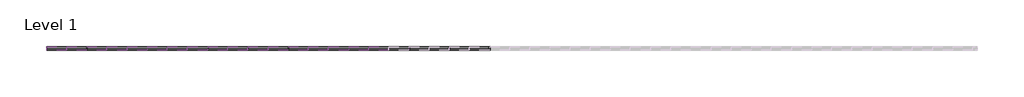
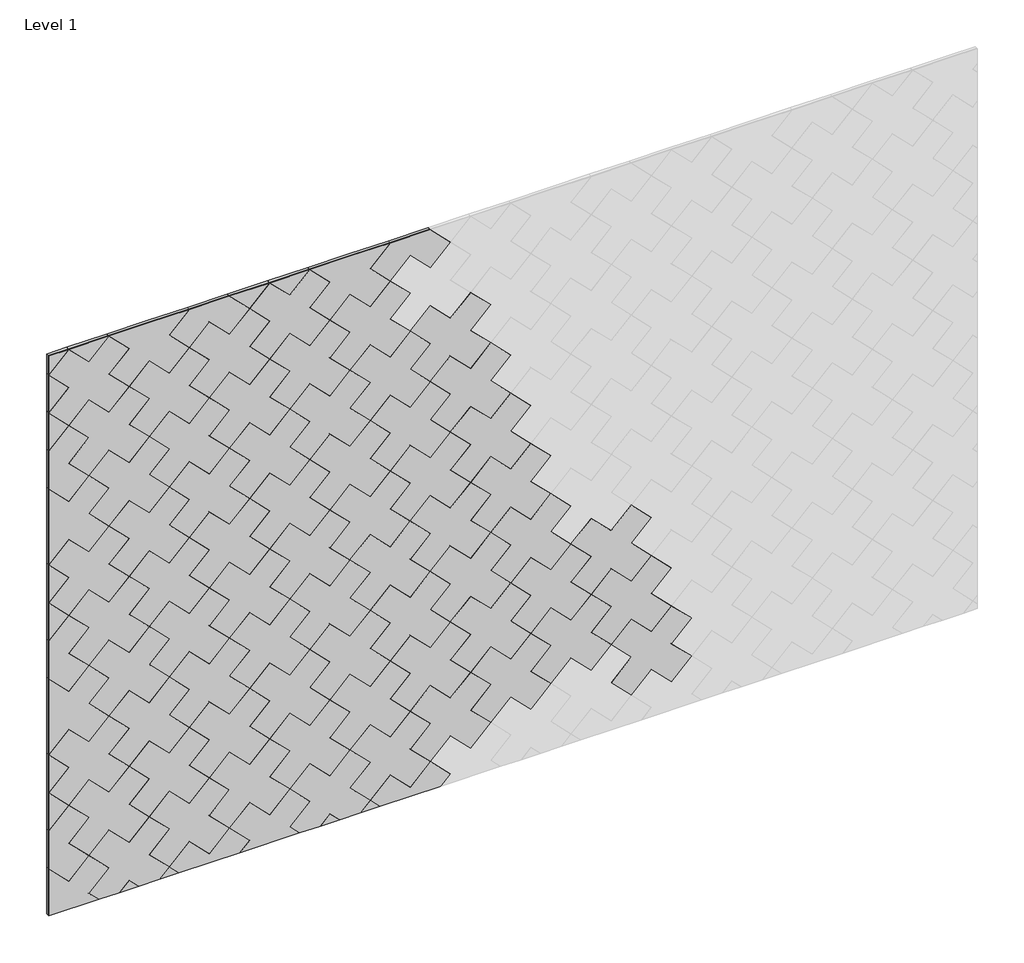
# One storey, part 1 of 2: 83 proxies.
"""IFC4 building model written with IfcOpenShell, lengths in millimetres."""

from ifc_helpers import new_model, si_unit, origin, place, context, project, spatial, transform, mapped, element, save
from components import plus_block_16ed84a6, plus_block_6a39ef65, plus_block_1609f09f, plus_block_e310b0f0, plus_block_f8594fd8, plus_block_650cdf51, plus_block_13f65815, plus_block_f92352bd, plus_block_983ba188, plus_block_c649341d, plus_block_2c174317, plus_block_b4ba28bf, plus_block_45ecfcac

model = new_model("IFC4")

# Units and contexts
model_context = context("Model", 3, world=origin())
ifc_project = project(units=[si_unit("LENGTHUNIT", "METRE", prefix="MILLI")], contexts=[model_context])

# Site, building, storey
site = spatial("IfcSite", under=ifc_project)
building = spatial("IfcBuilding", under=site)
storey = spatial("IfcBuildingStorey", under=building, Name="Level 1", Elevation=0.0)

# Proxies
placement = place(None, origin())
plus_block_shape = plus_block_16ed84a6(model_context)
element("IfcBuildingElementProxy", 1, Name="FilzFelt_Plus_Block : Plus Block", ObjectType="FilzFelt_Plus_Block : Plus Block", at=placement, inside=storey, context=model_context, shape_type="MappedRepresentation", body=[
    mapped(plus_block_shape, transform((19761.4081813, -17477.9339335, 1777.1117122), x_axis=(0.7071067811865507, 0.0, -0.7071067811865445), y_axis=(0.7071067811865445, 0.0, 0.7071067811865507), z_axis=(0.0, -1.0, 0.0))),
])
plus_block_2_shape = plus_block_6a39ef65(model_context)
element("IfcBuildingElementProxy", 2, Name="FilzFelt_Plus_Block : Plus Block", ObjectType="FilzFelt_Plus_Block : Plus Block", at=placement, inside=storey, context=model_context, shape_type="MappedRepresentation", body=[
    mapped(plus_block_2_shape, transform((20192.7433178, -17477.9339335, 1201.9981968), x_axis=(0.7071067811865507, 0.0, -0.7071067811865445), y_axis=(0.7071067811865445, 0.0, 0.7071067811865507), z_axis=(0.0, -1.0, 0.0))),
])
element("IfcBuildingElementProxy", 3, Name="FilzFelt_Plus_Block : Plus Block", ObjectType="FilzFelt_Plus_Block : Plus Block", at=placement, inside=storey, context=model_context, shape_type="MappedRepresentation", body=[
    mapped(plus_block_2_shape, transform((19905.1865601, -17477.9339335, 626.8846814), x_axis=(0.7071067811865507, 0.0, -0.7071067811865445), y_axis=(0.7071067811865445, 0.0, 0.7071067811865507), z_axis=(0.0, -1.0, 0.0))),
])
element("IfcBuildingElementProxy", 4, Name="FilzFelt_Plus_Block : Plus Block", ObjectType="FilzFelt_Plus_Block : Plus Block", at=placement, inside=storey, context=model_context, shape_type="MappedRepresentation", body=[
    mapped(plus_block_2_shape, transform((20048.964939, -17477.9339335, 195.5495449), x_axis=(0.7071067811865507, 0.0, -0.7071067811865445), y_axis=(0.7071067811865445, 0.0, 0.7071067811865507), z_axis=(0.0, -1.0, 0.0))),
])
element("IfcBuildingElementProxy", 5, Name="FilzFelt_Plus_Block : Plus Block", ObjectType="FilzFelt_Plus_Block : Plus Block", at=placement, inside=storey, context=model_context, shape_type="MappedRepresentation", body=[
    mapped(plus_block_2_shape, transform((20480.3000755, -17477.9339335, 339.3279238), x_axis=(0.7071067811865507, 0.0, -0.7071067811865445), y_axis=(0.7071067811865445, 0.0, 0.7071067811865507), z_axis=(0.0, -1.0, 0.0))),
])
element("IfcBuildingElementProxy", 6, Name="FilzFelt_Plus_Block : Plus Block", ObjectType="FilzFelt_Plus_Block : Plus Block", at=placement, inside=storey, context=model_context, shape_type="MappedRepresentation", body=[
    mapped(plus_block_2_shape, transform((20336.5216967, -17477.9339335, 51.7711661), x_axis=(0.7071067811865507, 0.0, -0.7071067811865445), y_axis=(0.7071067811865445, 0.0, 0.7071067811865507), z_axis=(0.0, -1.0, 0.0))),
])
element("IfcBuildingElementProxy", 7, Name="FilzFelt_Plus_Block : Plus Block", ObjectType="FilzFelt_Plus_Block : Plus Block", at=placement, inside=storey, context=model_context, shape_type="MappedRepresentation", body=[
    mapped(plus_block_2_shape, transform((20624.0784544, -17477.9339335, 1345.7765757), x_axis=(0.7071067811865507, 0.0, -0.7071067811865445), y_axis=(0.7071067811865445, 0.0, 0.7071067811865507), z_axis=(0.0, -1.0, 0.0))),
])
element("IfcBuildingElementProxy", 8, Name="FilzFelt_Plus_Block : Plus Block", ObjectType="FilzFelt_Plus_Block : Plus Block", at=placement, inside=storey, context=model_context, shape_type="MappedRepresentation", body=[
    mapped(plus_block_2_shape, transform((20552.1892649, -17477.9339335, 842.5522497), x_axis=(0.7071067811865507, 0.0, -0.7071067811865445), y_axis=(0.7071067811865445, 0.0, 0.7071067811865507), z_axis=(0.0, -1.0, 0.0))),
])
element("IfcBuildingElementProxy", 9, Name="FilzFelt_Plus_Block : Plus Block", ObjectType="FilzFelt_Plus_Block : Plus Block", at=placement, inside=storey, context=model_context, shape_type="MappedRepresentation", body=[
    mapped(plus_block_2_shape, transform((20767.8568332, -17477.9339335, 195.5495449), x_axis=(0.7071067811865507, 0.0, -0.7071067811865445), y_axis=(0.7071067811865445, 0.0, 0.7071067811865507), z_axis=(0.0, -1.0, 0.0))),
])
element("IfcBuildingElementProxy", 10, Name="FilzFelt_Plus_Block : Plus Block", ObjectType="FilzFelt_Plus_Block : Plus Block", at=placement, inside=storey, context=model_context, shape_type="MappedRepresentation", body=[
    mapped(plus_block_2_shape, transform((20839.7460226, -17477.9339335, -20.1180233), x_axis=(0.7071067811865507, 0.0, -0.7071067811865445), y_axis=(0.7071067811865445, 0.0, 0.7071067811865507), z_axis=(0.0, -1.0, 0.0))),
])
element("IfcBuildingElementProxy", 11, Name="FilzFelt_Plus_Block : Plus Block", ObjectType="FilzFelt_Plus_Block : Plus Block", at=placement, inside=storey, context=model_context, shape_type="MappedRepresentation", body=[
    mapped(plus_block_2_shape, transform((21414.859538, -17477.9339335, 411.2171132), x_axis=(0.7071067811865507, 0.0, -0.7071067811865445), y_axis=(0.7071067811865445, 0.0, 0.7071067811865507), z_axis=(0.0, -1.0, 0.0))),
])
element("IfcBuildingElementProxy", 12, Name="FilzFelt_Plus_Block : Plus Block", ObjectType="FilzFelt_Plus_Block : Plus Block", at=placement, inside=storey, context=model_context, shape_type="MappedRepresentation", body=[
    mapped(plus_block_2_shape, transform((21342.9703486, -17477.9339335, -92.0072128), x_axis=(0.7071067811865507, 0.0, -0.7071067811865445), y_axis=(0.7071067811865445, 0.0, 0.7071067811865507), z_axis=(0.0, -1.0, 0.0))),
])
element("IfcBuildingElementProxy", 13, Name="FilzFelt_Plus_Block : Plus Block", ObjectType="FilzFelt_Plus_Block : Plus Block", at=placement, inside=storey, context=model_context, shape_type="MappedRepresentation", body=[
    mapped(plus_block_2_shape, transform((21774.3054851, -17477.9339335, 51.7711661), x_axis=(0.7071067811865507, 0.0, -0.7071067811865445), y_axis=(0.7071067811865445, 0.0, 0.7071067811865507), z_axis=(0.0, -1.0, 0.0))),
])
element("IfcBuildingElementProxy", 14, Name="FilzFelt_Plus_Block : Plus Block", ObjectType="FilzFelt_Plus_Block : Plus Block", at=placement, inside=storey, context=model_context, shape_type="MappedRepresentation", body=[
    mapped(plus_block_2_shape, transform((21846.1946745, -17477.9339335, -163.8964022), x_axis=(0.7071067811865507, 0.0, -0.7071067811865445), y_axis=(0.7071067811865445, 0.0, 0.7071067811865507), z_axis=(0.0, -1.0, 0.0))),
])
element("IfcBuildingElementProxy", 15, Name="FilzFelt_Plus_Block : Plus Block", ObjectType="FilzFelt_Plus_Block : Plus Block", at=placement, inside=storey, context=model_context, shape_type="MappedRepresentation", body=[
    mapped(plus_block_2_shape, transform((20911.635212, -17477.9339335, 1201.9981968), x_axis=(0.7071067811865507, 0.0, -0.7071067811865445), y_axis=(0.7071067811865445, 0.0, 0.7071067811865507), z_axis=(0.0, -1.0, 0.0))),
])
element("IfcBuildingElementProxy", 16, Name="FilzFelt_Plus_Block : Plus Block", ObjectType="FilzFelt_Plus_Block : Plus Block", at=placement, inside=storey, context=model_context, shape_type="MappedRepresentation", body=[
    mapped(plus_block_2_shape, transform((21199.1919697, -17477.9339335, 1058.219818), x_axis=(0.7071067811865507, 0.0, -0.7071067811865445), y_axis=(0.7071067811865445, 0.0, 0.7071067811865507), z_axis=(0.0, -1.0, 0.0))),
])
plus_block_3_shape = plus_block_1609f09f(model_context)
element("IfcBuildingElementProxy", 17, Name="FilzFelt_Plus_Block : Plus Block", ObjectType="FilzFelt_Plus_Block : Plus Block", at=placement, inside=storey, context=model_context, shape_type="MappedRepresentation", body=[
    mapped(plus_block_3_shape, transform((19617.6298025, -17477.9339335, 770.6630603), x_axis=(0.7071067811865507, 0.0, -0.7071067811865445), y_axis=(0.7071067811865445, 0.0, 0.7071067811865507), z_axis=(0.0, -1.0, 0.0))),
])
element("IfcBuildingElementProxy", 18, Name="FilzFelt_Plus_Block : Plus Block", ObjectType="FilzFelt_Plus_Block : Plus Block", at=placement, inside=storey, context=model_context, shape_type="MappedRepresentation", body=[
    mapped(plus_block_3_shape, transform((19617.6298025, -17477.9339335, 51.7711661), x_axis=(0.7071067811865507, 0.0, -0.7071067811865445), y_axis=(0.7071067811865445, 0.0, 0.7071067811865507), z_axis=(0.0, -1.0, 0.0))),
])
plus_block_4_shape = plus_block_e310b0f0(model_context)
element("IfcBuildingElementProxy", 19, Name="FilzFelt_Plus_Block : Plus Block", ObjectType="FilzFelt_Plus_Block : Plus Block", at=placement, inside=storey, context=model_context, shape_type="MappedRepresentation", body=[
    mapped(plus_block_4_shape, transform((20983.5244015, -17477.9339335, 1705.2225228), x_axis=(0.7071067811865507, 0.0, -0.7071067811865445), y_axis=(0.7071067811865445, 0.0, 0.7071067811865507), z_axis=(0.0, -1.0, 0.0))),
])
plus_block_5_shape = plus_block_f8594fd8(model_context)
element("IfcBuildingElementProxy", 20, Name="FilzFelt_Plus_Block : Plus Block", ObjectType="FilzFelt_Plus_Block : Plus Block", at=placement, inside=storey, context=model_context, shape_type="MappedRepresentation", body=[
    mapped(plus_block_5_shape, transform((20480.3000755, -17477.9339335, -379.5639704), x_axis=(0.7071067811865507, 0.0, -0.7071067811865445), y_axis=(0.7071067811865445, 0.0, 0.7071067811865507), z_axis=(0.0, -1.0, 0.0))),
])
plus_block_6_shape = plus_block_650cdf51(model_context)
element("IfcBuildingElementProxy", 21, Name="FilzFelt_Plus_Block : Plus Block", ObjectType="FilzFelt_Plus_Block : Plus Block", at=placement, inside=storey, context=model_context, shape_type="MappedRepresentation", body=[
    mapped(plus_block_6_shape, transform((19977.0757496, -17477.9339335, -307.674781), x_axis=(0.7071067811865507, 0.0, -0.7071067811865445), y_axis=(0.7071067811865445, 0.0, 0.7071067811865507), z_axis=(0.0, -1.0, 0.0))),
])
plus_block_7_shape = plus_block_13f65815(model_context)
element("IfcBuildingElementProxy", 22, Name="FilzFelt_Plus_Block : Plus Block", ObjectType="FilzFelt_Plus_Block : Plus Block", at=placement, inside=storey, context=model_context, shape_type="MappedRepresentation", body=[
    mapped(plus_block_7_shape, transform((20048.964939, -17477.9339335, -523.3423493), x_axis=(0.7071067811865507, 0.0, -0.7071067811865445), y_axis=(0.7071067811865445, 0.0, 0.7071067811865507), z_axis=(0.0, -1.0, 0.0))),
])
element("IfcBuildingElementProxy", 23, Name="FilzFelt_Plus_Block : Plus Block", ObjectType="FilzFelt_Plus_Block : Plus Block", at=placement, inside=storey, context=model_context, shape_type="MappedRepresentation", body=[
    mapped(plus_block_7_shape, transform((20767.8568332, -17477.9339335, -523.3423493), x_axis=(0.7071067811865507, 0.0, -0.7071067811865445), y_axis=(0.7071067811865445, 0.0, 0.7071067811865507), z_axis=(0.0, -1.0, 0.0))),
])
plus_block_8_shape = plus_block_f92352bd(model_context)
element("IfcBuildingElementProxy", 24, Name="FilzFelt_Plus_Block : Plus Block", ObjectType="FilzFelt_Plus_Block : Plus Block", at=placement, inside=storey, context=model_context, shape_type="MappedRepresentation", body=[
    mapped(plus_block_8_shape, transform((19689.5189919, -17477.9339335, 1273.8873862), x_axis=(0.7071067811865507, 0.0, -0.7071067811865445), y_axis=(0.7071067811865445, 0.0, 0.7071067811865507), z_axis=(0.0, -1.0, 0.0))),
])
element("IfcBuildingElementProxy", 25, Name="FilzFelt_Plus_Block : Plus Block", ObjectType="FilzFelt_Plus_Block : Plus Block", at=placement, inside=storey, context=model_context, shape_type="MappedRepresentation", body=[
    mapped(plus_block_3_shape, transform((19617.6298025, -17477.9339335, 1489.5549545), x_axis=(0.7071067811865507, 0.0, -0.7071067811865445), y_axis=(0.7071067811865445, 0.0, 0.7071067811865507), z_axis=(0.0, -1.0, 0.0))),
])
plus_block_9_shape = plus_block_983ba188(model_context)
element("IfcBuildingElementProxy", 26, Name="FilzFelt_Plus_Block : Plus Block", ObjectType="FilzFelt_Plus_Block : Plus Block", at=placement, inside=storey, context=model_context, shape_type="MappedRepresentation", body=[
    mapped(plus_block_9_shape, transform((19761.4081813, -17477.9339335, 1058.219818), x_axis=(0.7071067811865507, 0.0, -0.7071067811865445), y_axis=(0.7071067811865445, 0.0, 0.7071067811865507), z_axis=(0.0, -1.0, 0.0))),
])
element("IfcBuildingElementProxy", 27, Name="FilzFelt_Plus_Block : Plus Block", ObjectType="FilzFelt_Plus_Block : Plus Block", at=placement, inside=storey, context=model_context, shape_type="MappedRepresentation", body=[
    mapped(plus_block_8_shape, transform((19689.5189919, -17477.9339335, 554.995492), x_axis=(0.7071067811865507, 0.0, -0.7071067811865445), y_axis=(0.7071067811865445, 0.0, 0.7071067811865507), z_axis=(0.0, -1.0, 0.0))),
])
element("IfcBuildingElementProxy", 28, Name="FilzFelt_Plus_Block : Plus Block", ObjectType="FilzFelt_Plus_Block : Plus Block", at=placement, inside=storey, context=model_context, shape_type="MappedRepresentation", body=[
    mapped(plus_block_2_shape, transform((20048.964939, -17477.9339335, 914.4414391), x_axis=(0.7071067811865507, 0.0, -0.7071067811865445), y_axis=(0.7071067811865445, 0.0, 0.7071067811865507), z_axis=(0.0, -1.0, 0.0))),
])
element("IfcBuildingElementProxy", 29, Name="FilzFelt_Plus_Block : Plus Block", ObjectType="FilzFelt_Plus_Block : Plus Block", at=placement, inside=storey, context=model_context, shape_type="MappedRepresentation", body=[
    mapped(plus_block_2_shape, transform((20120.8541284, -17477.9339335, 1417.6657651), x_axis=(0.7071067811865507, 0.0, -0.7071067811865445), y_axis=(0.7071067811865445, 0.0, 0.7071067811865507), z_axis=(0.0, -1.0, 0.0))),
])
element("IfcBuildingElementProxy", 30, Name="FilzFelt_Plus_Block : Plus Block", ObjectType="FilzFelt_Plus_Block : Plus Block", at=placement, inside=storey, context=model_context, shape_type="MappedRepresentation", body=[
    mapped(plus_block_2_shape, transform((20336.5216967, -17477.9339335, 770.6630603), x_axis=(0.7071067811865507, 0.0, -0.7071067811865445), y_axis=(0.7071067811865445, 0.0, 0.7071067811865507), z_axis=(0.0, -1.0, 0.0))),
])
element("IfcBuildingElementProxy", 31, Name="FilzFelt_Plus_Block : Plus Block", ObjectType="FilzFelt_Plus_Block : Plus Block", at=placement, inside=storey, context=model_context, shape_type="MappedRepresentation", body=[
    mapped(plus_block_2_shape, transform((19977.0757496, -17477.9339335, 411.2171132), x_axis=(0.7071067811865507, 0.0, -0.7071067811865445), y_axis=(0.7071067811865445, 0.0, 0.7071067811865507), z_axis=(0.0, -1.0, 0.0))),
])
element("IfcBuildingElementProxy", 32, Name="FilzFelt_Plus_Block : Plus Block", ObjectType="FilzFelt_Plus_Block : Plus Block", at=placement, inside=storey, context=model_context, shape_type="MappedRepresentation", body=[
    mapped(plus_block_2_shape, transform((19833.2973707, -17477.9339335, 123.6603555), x_axis=(0.7071067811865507, 0.0, -0.7071067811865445), y_axis=(0.7071067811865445, 0.0, 0.7071067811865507), z_axis=(0.0, -1.0, 0.0))),
])
element("IfcBuildingElementProxy", 33, Name="FilzFelt_Plus_Block : Plus Block", ObjectType="FilzFelt_Plus_Block : Plus Block", at=placement, inside=storey, context=model_context, shape_type="MappedRepresentation", body=[
    mapped(plus_block_2_shape, transform((20408.4108861, -17477.9339335, 1273.8873862), x_axis=(0.7071067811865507, 0.0, -0.7071067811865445), y_axis=(0.7071067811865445, 0.0, 0.7071067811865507), z_axis=(0.0, -1.0, 0.0))),
])
element("IfcBuildingElementProxy", 34, Name="FilzFelt_Plus_Block : Plus Block", ObjectType="FilzFelt_Plus_Block : Plus Block", at=placement, inside=storey, context=model_context, shape_type="MappedRepresentation", body=[
    mapped(plus_block_2_shape, transform((20983.5244015, -17477.9339335, 267.4387343), x_axis=(0.7071067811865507, 0.0, -0.7071067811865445), y_axis=(0.7071067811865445, 0.0, 0.7071067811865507), z_axis=(0.0, -1.0, 0.0))),
])
element("IfcBuildingElementProxy", 35, Name="FilzFelt_Plus_Block : Plus Block", ObjectType="FilzFelt_Plus_Block : Plus Block", at=placement, inside=storey, context=model_context, shape_type="MappedRepresentation", body=[
    mapped(plus_block_2_shape, transform((21271.0811591, -17477.9339335, 123.6603555), x_axis=(0.7071067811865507, 0.0, -0.7071067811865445), y_axis=(0.7071067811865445, 0.0, 0.7071067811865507), z_axis=(0.0, -1.0, 0.0))),
])
element("IfcBuildingElementProxy", 36, Name="FilzFelt_Plus_Block : Plus Block", ObjectType="FilzFelt_Plus_Block : Plus Block", at=placement, inside=storey, context=model_context, shape_type="MappedRepresentation", body=[
    mapped(plus_block_2_shape, transform((21127.3027803, -17477.9339335, 554.995492), x_axis=(0.7071067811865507, 0.0, -0.7071067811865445), y_axis=(0.7071067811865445, 0.0, 0.7071067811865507), z_axis=(0.0, -1.0, 0.0))),
])
element("IfcBuildingElementProxy", 37, Name="FilzFelt_Plus_Block : Plus Block", ObjectType="FilzFelt_Plus_Block : Plus Block", at=placement, inside=storey, context=model_context, shape_type="MappedRepresentation", body=[
    mapped(plus_block_2_shape, transform((21486.7487274, -17477.9339335, 195.5495449), x_axis=(0.7071067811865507, 0.0, -0.7071067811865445), y_axis=(0.7071067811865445, 0.0, 0.7071067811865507), z_axis=(0.0, -1.0, 0.0))),
])
element("IfcBuildingElementProxy", 38, Name="FilzFelt_Plus_Block : Plus Block", ObjectType="FilzFelt_Plus_Block : Plus Block", at=placement, inside=storey, context=model_context, shape_type="MappedRepresentation", body=[
    mapped(plus_block_2_shape, transform((20839.7460226, -17477.9339335, 1417.6657651), x_axis=(0.7071067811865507, 0.0, -0.7071067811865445), y_axis=(0.7071067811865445, 0.0, 0.7071067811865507), z_axis=(0.0, -1.0, 0.0))),
])
element("IfcBuildingElementProxy", 39, Name="FilzFelt_Plus_Block : Plus Block", ObjectType="FilzFelt_Plus_Block : Plus Block", at=placement, inside=storey, context=model_context, shape_type="MappedRepresentation", body=[
    mapped(plus_block_2_shape, transform((20839.7460226, -17477.9339335, 698.7738709), x_axis=(0.7071067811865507, 0.0, -0.7071067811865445), y_axis=(0.7071067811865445, 0.0, 0.7071067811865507), z_axis=(0.0, -1.0, 0.0))),
])
element("IfcBuildingElementProxy", 40, Name="FilzFelt_Plus_Block : Plus Block", ObjectType="FilzFelt_Plus_Block : Plus Block", at=placement, inside=storey, context=model_context, shape_type="MappedRepresentation", body=[
    mapped(plus_block_2_shape, transform((20983.5244015, -17477.9339335, 986.3306285), x_axis=(0.7071067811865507, 0.0, -0.7071067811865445), y_axis=(0.7071067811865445, 0.0, 0.7071067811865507), z_axis=(0.0, -1.0, 0.0))),
])
plus_block_10_shape = plus_block_c649341d(model_context)
element("IfcBuildingElementProxy", 41, Name="FilzFelt_Plus_Block : Plus Block", ObjectType="FilzFelt_Plus_Block : Plus Block", at=placement, inside=storey, context=model_context, shape_type="MappedRepresentation", body=[
    mapped(plus_block_10_shape, transform((19761.4081813, -17477.9339335, -379.5639704), x_axis=(0.7071067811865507, 0.0, -0.7071067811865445), y_axis=(0.7071067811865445, 0.0, 0.7071067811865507), z_axis=(0.0, -1.0, 0.0))),
])
element("IfcBuildingElementProxy", 42, Name="FilzFelt_Plus_Block : Plus Block", ObjectType="FilzFelt_Plus_Block : Plus Block", at=placement, inside=storey, context=model_context, shape_type="MappedRepresentation", body=[
    mapped(plus_block_6_shape, transform((20695.9676438, -17477.9339335, -307.674781), x_axis=(0.7071067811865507, 0.0, -0.7071067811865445), y_axis=(0.7071067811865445, 0.0, 0.7071067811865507), z_axis=(0.0, -1.0, 0.0))),
])
plus_block_11_shape = plus_block_2c174317(model_context)
element("IfcBuildingElementProxy", 43, Name="FilzFelt_Plus_Block : Plus Block", ObjectType="FilzFelt_Plus_Block : Plus Block", at=placement, inside=storey, context=model_context, shape_type="MappedRepresentation", body=[
    mapped(plus_block_11_shape, transform((20264.6325073, -17477.9339335, -451.4531599), x_axis=(0.7071067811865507, 0.0, -0.7071067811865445), y_axis=(0.7071067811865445, 0.0, 0.7071067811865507), z_axis=(0.0, -1.0, 0.0))),
])
element("IfcBuildingElementProxy", 44, Name="FilzFelt_Plus_Block : Plus Block", ObjectType="FilzFelt_Plus_Block : Plus Block", at=placement, inside=storey, context=model_context, shape_type="MappedRepresentation", body=[
    mapped(plus_block_11_shape, transform((20983.5244015, -17477.9339335, -451.4531599), x_axis=(0.7071067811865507, 0.0, -0.7071067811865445), y_axis=(0.7071067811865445, 0.0, 0.7071067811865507), z_axis=(0.0, -1.0, 0.0))),
])
element("IfcBuildingElementProxy", 45, Name="FilzFelt_Plus_Block : Plus Block", ObjectType="FilzFelt_Plus_Block : Plus Block", at=placement, inside=storey, context=model_context, shape_type="MappedRepresentation", body=[
    mapped(plus_block_2_shape, transform((19833.2973707, -17477.9339335, 1561.4441439), x_axis=(0.7071067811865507, 0.0, -0.7071067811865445), y_axis=(0.7071067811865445, 0.0, 0.7071067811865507), z_axis=(0.0, -1.0, 0.0))),
])
element("IfcBuildingElementProxy", 46, Name="FilzFelt_Plus_Block : Plus Block", ObjectType="FilzFelt_Plus_Block : Plus Block", at=placement, inside=storey, context=model_context, shape_type="MappedRepresentation", body=[
    mapped(plus_block_2_shape, transform((19977.0757496, -17477.9339335, 1130.1090074), x_axis=(0.7071067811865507, 0.0, -0.7071067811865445), y_axis=(0.7071067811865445, 0.0, 0.7071067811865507), z_axis=(0.0, -1.0, 0.0))),
])
element("IfcBuildingElementProxy", 47, Name="FilzFelt_Plus_Block : Plus Block", ObjectType="FilzFelt_Plus_Block : Plus Block", at=placement, inside=storey, context=model_context, shape_type="MappedRepresentation", body=[
    mapped(plus_block_2_shape, transform((20264.6325073, -17477.9339335, 986.3306285), x_axis=(0.7071067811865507, 0.0, -0.7071067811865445), y_axis=(0.7071067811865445, 0.0, 0.7071067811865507), z_axis=(0.0, -1.0, 0.0))),
])
element("IfcBuildingElementProxy", 48, Name="FilzFelt_Plus_Block : Plus Block", ObjectType="FilzFelt_Plus_Block : Plus Block", at=placement, inside=storey, context=model_context, shape_type="MappedRepresentation", body=[
    mapped(plus_block_2_shape, transform((20192.7433178, -17477.9339335, 483.1063026), x_axis=(0.7071067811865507, 0.0, -0.7071067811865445), y_axis=(0.7071067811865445, 0.0, 0.7071067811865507), z_axis=(0.0, -1.0, 0.0))),
])
element("IfcBuildingElementProxy", 49, Name="FilzFelt_Plus_Block : Plus Block", ObjectType="FilzFelt_Plus_Block : Plus Block", at=placement, inside=storey, context=model_context, shape_type="MappedRepresentation", body=[
    mapped(plus_block_2_shape, transform((20264.6325073, -17477.9339335, 267.4387343), x_axis=(0.7071067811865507, 0.0, -0.7071067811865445), y_axis=(0.7071067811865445, 0.0, 0.7071067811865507), z_axis=(0.0, -1.0, 0.0))),
])
element("IfcBuildingElementProxy", 50, Name="FilzFelt_Plus_Block : Plus Block", ObjectType="FilzFelt_Plus_Block : Plus Block", at=placement, inside=storey, context=model_context, shape_type="MappedRepresentation", body=[
    mapped(plus_block_2_shape, transform((19905.1865601, -17477.9339335, -92.0072128), x_axis=(0.7071067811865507, 0.0, -0.7071067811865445), y_axis=(0.7071067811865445, 0.0, 0.7071067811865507), z_axis=(0.0, -1.0, 0.0))),
])
element("IfcBuildingElementProxy", 51, Name="FilzFelt_Plus_Block : Plus Block", ObjectType="FilzFelt_Plus_Block : Plus Block", at=placement, inside=storey, context=model_context, shape_type="MappedRepresentation", body=[
    mapped(plus_block_2_shape, transform((20552.1892649, -17477.9339335, 123.6603555), x_axis=(0.7071067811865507, 0.0, -0.7071067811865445), y_axis=(0.7071067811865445, 0.0, 0.7071067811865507), z_axis=(0.0, -1.0, 0.0))),
])
element("IfcBuildingElementProxy", 52, Name="FilzFelt_Plus_Block : Plus Block", ObjectType="FilzFelt_Plus_Block : Plus Block", at=placement, inside=storey, context=model_context, shape_type="MappedRepresentation", body=[
    mapped(plus_block_2_shape, transform((20408.4108861, -17477.9339335, -163.8964022), x_axis=(0.7071067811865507, 0.0, -0.7071067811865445), y_axis=(0.7071067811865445, 0.0, 0.7071067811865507), z_axis=(0.0, -1.0, 0.0))),
])
element("IfcBuildingElementProxy", 53, Name="FilzFelt_Plus_Block : Plus Block", ObjectType="FilzFelt_Plus_Block : Plus Block", at=placement, inside=storey, context=model_context, shape_type="MappedRepresentation", body=[
    mapped(plus_block_2_shape, transform((20552.1892649, -17477.9339335, 1561.4441439), x_axis=(0.7071067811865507, 0.0, -0.7071067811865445), y_axis=(0.7071067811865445, 0.0, 0.7071067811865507), z_axis=(0.0, -1.0, 0.0))),
])
element("IfcBuildingElementProxy", 54, Name="FilzFelt_Plus_Block : Plus Block", ObjectType="FilzFelt_Plus_Block : Plus Block", at=placement, inside=storey, context=model_context, shape_type="MappedRepresentation", body=[
    mapped(plus_block_2_shape, transform((20480.3000755, -17477.9339335, 1058.219818), x_axis=(0.7071067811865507, 0.0, -0.7071067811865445), y_axis=(0.7071067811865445, 0.0, 0.7071067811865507), z_axis=(0.0, -1.0, 0.0))),
])
element("IfcBuildingElementProxy", 55, Name="FilzFelt_Plus_Block : Plus Block", ObjectType="FilzFelt_Plus_Block : Plus Block", at=placement, inside=storey, context=model_context, shape_type="MappedRepresentation", body=[
    mapped(plus_block_2_shape, transform((20624.0784544, -17477.9339335, 626.8846814), x_axis=(0.7071067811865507, 0.0, -0.7071067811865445), y_axis=(0.7071067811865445, 0.0, 0.7071067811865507), z_axis=(0.0, -1.0, 0.0))),
])
element("IfcBuildingElementProxy", 56, Name="FilzFelt_Plus_Block : Plus Block", ObjectType="FilzFelt_Plus_Block : Plus Block", at=placement, inside=storey, context=model_context, shape_type="MappedRepresentation", body=[
    mapped(plus_block_2_shape, transform((21055.4135909, -17477.9339335, 51.7711661), x_axis=(0.7071067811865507, 0.0, -0.7071067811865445), y_axis=(0.7071067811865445, 0.0, 0.7071067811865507), z_axis=(0.0, -1.0, 0.0))),
])
element("IfcBuildingElementProxy", 57, Name="FilzFelt_Plus_Block : Plus Block", ObjectType="FilzFelt_Plus_Block : Plus Block", at=placement, inside=storey, context=model_context, shape_type="MappedRepresentation", body=[
    mapped(plus_block_2_shape, transform((20911.635212, -17477.9339335, 483.1063026), x_axis=(0.7071067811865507, 0.0, -0.7071067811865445), y_axis=(0.7071067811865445, 0.0, 0.7071067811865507), z_axis=(0.0, -1.0, 0.0))),
])
element("IfcBuildingElementProxy", 58, Name="FilzFelt_Plus_Block : Plus Block", ObjectType="FilzFelt_Plus_Block : Plus Block", at=placement, inside=storey, context=model_context, shape_type="MappedRepresentation", body=[
    mapped(plus_block_2_shape, transform((21199.1919697, -17477.9339335, 339.3279238), x_axis=(0.7071067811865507, 0.0, -0.7071067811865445), y_axis=(0.7071067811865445, 0.0, 0.7071067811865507), z_axis=(0.0, -1.0, 0.0))),
])
element("IfcBuildingElementProxy", 59, Name="FilzFelt_Plus_Block : Plus Block", ObjectType="FilzFelt_Plus_Block : Plus Block", at=placement, inside=storey, context=model_context, shape_type="MappedRepresentation", body=[
    mapped(plus_block_2_shape, transform((21702.4162957, -17477.9339335, 267.4387343), x_axis=(0.7071067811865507, 0.0, -0.7071067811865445), y_axis=(0.7071067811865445, 0.0, 0.7071067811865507), z_axis=(0.0, -1.0, 0.0))),
])
element("IfcBuildingElementProxy", 60, Name="FilzFelt_Plus_Block : Plus Block", ObjectType="FilzFelt_Plus_Block : Plus Block", at=placement, inside=storey, context=model_context, shape_type="MappedRepresentation", body=[
    mapped(plus_block_2_shape, transform((21055.4135909, -17477.9339335, 770.6630603), x_axis=(0.7071067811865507, 0.0, -0.7071067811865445), y_axis=(0.7071067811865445, 0.0, 0.7071067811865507), z_axis=(0.0, -1.0, 0.0))),
])
element("IfcBuildingElementProxy", 61, Name="FilzFelt_Plus_Block : Plus Block", ObjectType="FilzFelt_Plus_Block : Plus Block", at=placement, inside=storey, context=model_context, shape_type="MappedRepresentation", body=[
    mapped(plus_block_2_shape, transform((21271.0811591, -17477.9339335, 842.5522497), x_axis=(0.7071067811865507, 0.0, -0.7071067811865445), y_axis=(0.7071067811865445, 0.0, 0.7071067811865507), z_axis=(0.0, -1.0, 0.0))),
])
element("IfcBuildingElementProxy", 62, Name="FilzFelt_Plus_Block : Plus Block", ObjectType="FilzFelt_Plus_Block : Plus Block", at=placement, inside=storey, context=model_context, shape_type="MappedRepresentation", body=[
    mapped(plus_block_2_shape, transform((21127.3027803, -17477.9339335, 1273.8873862), x_axis=(0.7071067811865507, 0.0, -0.7071067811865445), y_axis=(0.7071067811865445, 0.0, 0.7071067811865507), z_axis=(0.0, -1.0, 0.0))),
])
element("IfcBuildingElementProxy", 63, Name="FilzFelt_Plus_Block : Plus Block", ObjectType="FilzFelt_Plus_Block : Plus Block", at=placement, inside=storey, context=model_context, shape_type="MappedRepresentation", body=[
    mapped(plus_block_2_shape, transform((20911.635212, -17477.9339335, -235.7855916), x_axis=(0.7071067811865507, 0.0, -0.7071067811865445), y_axis=(0.7071067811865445, 0.0, 0.7071067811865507), z_axis=(0.0, -1.0, 0.0))),
])
plus_block_12_shape = plus_block_b4ba28bf(model_context)
element("IfcBuildingElementProxy", 64, Name="FilzFelt_Plus_Block : Plus Block", ObjectType="FilzFelt_Plus_Block : Plus Block", at=placement, inside=storey, context=model_context, shape_type="MappedRepresentation", body=[
    mapped(plus_block_12_shape, transform((20048.964939, -17477.9339335, 1633.3333333), x_axis=(0.7071067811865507, 0.0, -0.7071067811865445), y_axis=(0.7071067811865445, 0.0, 0.7071067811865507), z_axis=(0.0, -1.0, 0.0))),
])
plus_block_13_shape = plus_block_45ecfcac(model_context)
element("IfcBuildingElementProxy", 65, Name="FilzFelt_Plus_Block : Plus Block", ObjectType="FilzFelt_Plus_Block : Plus Block", at=placement, inside=storey, context=model_context, shape_type="MappedRepresentation", body=[
    mapped(plus_block_13_shape, transform((20480.3000755, -17477.9339335, 1777.1117122), x_axis=(0.7071067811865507, 0.0, -0.7071067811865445), y_axis=(0.7071067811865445, 0.0, 0.7071067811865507), z_axis=(0.0, -1.0, 0.0))),
])
element("IfcBuildingElementProxy", 66, Name="FilzFelt_Plus_Block : Plus Block", ObjectType="FilzFelt_Plus_Block : Plus Block", at=placement, inside=storey, context=model_context, shape_type="MappedRepresentation", body=[
    mapped(plus_block_9_shape, transform((19761.4081813, -17477.9339335, 339.3279238), x_axis=(0.7071067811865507, 0.0, -0.7071067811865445), y_axis=(0.7071067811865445, 0.0, 0.7071067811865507), z_axis=(0.0, -1.0, 0.0))),
])
element("IfcBuildingElementProxy", 67, Name="FilzFelt_Plus_Block : Plus Block", ObjectType="FilzFelt_Plus_Block : Plus Block", at=placement, inside=storey, context=model_context, shape_type="MappedRepresentation", body=[
    mapped(plus_block_8_shape, transform((19689.5189919, -17477.9339335, -163.8964022), x_axis=(0.7071067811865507, 0.0, -0.7071067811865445), y_axis=(0.7071067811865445, 0.0, 0.7071067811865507), z_axis=(0.0, -1.0, 0.0))),
])
element("IfcBuildingElementProxy", 68, Name="FilzFelt_Plus_Block : Plus Block", ObjectType="FilzFelt_Plus_Block : Plus Block", at=placement, inside=storey, context=model_context, shape_type="MappedRepresentation", body=[
    mapped(plus_block_2_shape, transform((20120.8541284, -17477.9339335, 698.7738709), x_axis=(0.7071067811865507, 0.0, -0.7071067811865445), y_axis=(0.7071067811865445, 0.0, 0.7071067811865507), z_axis=(0.0, -1.0, 0.0))),
])
element("IfcBuildingElementProxy", 69, Name="FilzFelt_Plus_Block : Plus Block", ObjectType="FilzFelt_Plus_Block : Plus Block", at=placement, inside=storey, context=model_context, shape_type="MappedRepresentation", body=[
    mapped(plus_block_2_shape, transform((20624.0784544, -17477.9339335, -92.0072128), x_axis=(0.7071067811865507, 0.0, -0.7071067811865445), y_axis=(0.7071067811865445, 0.0, 0.7071067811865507), z_axis=(0.0, -1.0, 0.0))),
])
element("IfcBuildingElementProxy", 70, Name="FilzFelt_Plus_Block : Plus Block", ObjectType="FilzFelt_Plus_Block : Plus Block", at=placement, inside=storey, context=model_context, shape_type="MappedRepresentation", body=[
    mapped(plus_block_2_shape, transform((20336.5216967, -17477.9339335, 1489.5549545), x_axis=(0.7071067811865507, 0.0, -0.7071067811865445), y_axis=(0.7071067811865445, 0.0, 0.7071067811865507), z_axis=(0.0, -1.0, 0.0))),
])
element("IfcBuildingElementProxy", 71, Name="FilzFelt_Plus_Block : Plus Block", ObjectType="FilzFelt_Plus_Block : Plus Block", at=placement, inside=storey, context=model_context, shape_type="MappedRepresentation", body=[
    mapped(plus_block_2_shape, transform((20695.9676438, -17477.9339335, 411.2171132), x_axis=(0.7071067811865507, 0.0, -0.7071067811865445), y_axis=(0.7071067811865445, 0.0, 0.7071067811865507), z_axis=(0.0, -1.0, 0.0))),
])
element("IfcBuildingElementProxy", 72, Name="FilzFelt_Plus_Block : Plus Block", ObjectType="FilzFelt_Plus_Block : Plus Block", at=placement, inside=storey, context=model_context, shape_type="MappedRepresentation", body=[
    mapped(plus_block_2_shape, transform((21127.3027803, -17477.9339335, -163.8964022), x_axis=(0.7071067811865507, 0.0, -0.7071067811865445), y_axis=(0.7071067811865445, 0.0, 0.7071067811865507), z_axis=(0.0, -1.0, 0.0))),
])
element("IfcBuildingElementProxy", 73, Name="FilzFelt_Plus_Block : Plus Block", ObjectType="FilzFelt_Plus_Block : Plus Block", at=placement, inside=storey, context=model_context, shape_type="MappedRepresentation", body=[
    mapped(plus_block_2_shape, transform((20767.8568332, -17477.9339335, 914.4414391), x_axis=(0.7071067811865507, 0.0, -0.7071067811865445), y_axis=(0.7071067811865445, 0.0, 0.7071067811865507), z_axis=(0.0, -1.0, 0.0))),
])
element("IfcBuildingElementProxy", 74, Name="FilzFelt_Plus_Block : Plus Block", ObjectType="FilzFelt_Plus_Block : Plus Block", at=placement, inside=storey, context=model_context, shape_type="MappedRepresentation", body=[
    mapped(plus_block_2_shape, transform((20192.7433178, -17477.9339335, -235.7855916), x_axis=(0.7071067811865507, 0.0, -0.7071067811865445), y_axis=(0.7071067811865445, 0.0, 0.7071067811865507), z_axis=(0.0, -1.0, 0.0))),
])
element("IfcBuildingElementProxy", 75, Name="FilzFelt_Plus_Block : Plus Block", ObjectType="FilzFelt_Plus_Block : Plus Block", at=placement, inside=storey, context=model_context, shape_type="MappedRepresentation", body=[
    mapped(plus_block_12_shape, transform((20767.8568332, -17477.9339335, 1633.3333333), x_axis=(0.7071067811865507, 0.0, -0.7071067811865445), y_axis=(0.7071067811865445, 0.0, 0.7071067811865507), z_axis=(0.0, -1.0, 0.0))),
])
element("IfcBuildingElementProxy", 76, Name="FilzFelt_Plus_Block : Plus Block", ObjectType="FilzFelt_Plus_Block : Plus Block", at=placement, inside=storey, context=model_context, shape_type="MappedRepresentation", body=[
    mapped(plus_block_2_shape, transform((19905.1865601, -17477.9339335, 1345.7765757), x_axis=(0.7071067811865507, 0.0, -0.7071067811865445), y_axis=(0.7071067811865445, 0.0, 0.7071067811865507), z_axis=(0.0, -1.0, 0.0))),
])
element("IfcBuildingElementProxy", 77, Name="FilzFelt_Plus_Block : Plus Block", ObjectType="FilzFelt_Plus_Block : Plus Block", at=placement, inside=storey, context=model_context, shape_type="MappedRepresentation", body=[
    mapped(plus_block_2_shape, transform((19833.2973707, -17477.9339335, 842.5522497), x_axis=(0.7071067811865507, 0.0, -0.7071067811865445), y_axis=(0.7071067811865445, 0.0, 0.7071067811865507), z_axis=(0.0, -1.0, 0.0))),
])
element("IfcBuildingElementProxy", 78, Name="FilzFelt_Plus_Block : Plus Block", ObjectType="FilzFelt_Plus_Block : Plus Block", at=placement, inside=storey, context=model_context, shape_type="MappedRepresentation", body=[
    mapped(plus_block_2_shape, transform((20408.4108861, -17477.9339335, 554.995492), x_axis=(0.7071067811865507, 0.0, -0.7071067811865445), y_axis=(0.7071067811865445, 0.0, 0.7071067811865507), z_axis=(0.0, -1.0, 0.0))),
])
element("IfcBuildingElementProxy", 79, Name="FilzFelt_Plus_Block : Plus Block", ObjectType="FilzFelt_Plus_Block : Plus Block", at=placement, inside=storey, context=model_context, shape_type="MappedRepresentation", body=[
    mapped(plus_block_2_shape, transform((20120.8541284, -17477.9339335, -20.1180233), x_axis=(0.7071067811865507, 0.0, -0.7071067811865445), y_axis=(0.7071067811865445, 0.0, 0.7071067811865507), z_axis=(0.0, -1.0, 0.0))),
])
element("IfcBuildingElementProxy", 80, Name="FilzFelt_Plus_Block : Plus Block", ObjectType="FilzFelt_Plus_Block : Plus Block", at=placement, inside=storey, context=model_context, shape_type="MappedRepresentation", body=[
    mapped(plus_block_2_shape, transform((20695.9676438, -17477.9339335, 1130.1090074), x_axis=(0.7071067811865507, 0.0, -0.7071067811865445), y_axis=(0.7071067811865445, 0.0, 0.7071067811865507), z_axis=(0.0, -1.0, 0.0))),
])
element("IfcBuildingElementProxy", 81, Name="FilzFelt_Plus_Block : Plus Block", ObjectType="FilzFelt_Plus_Block : Plus Block", at=placement, inside=storey, context=model_context, shape_type="MappedRepresentation", body=[
    mapped(plus_block_2_shape, transform((21558.6379168, -17477.9339335, -20.1180233), x_axis=(0.7071067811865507, 0.0, -0.7071067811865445), y_axis=(0.7071067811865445, 0.0, 0.7071067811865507), z_axis=(0.0, -1.0, 0.0))),
])
element("IfcBuildingElementProxy", 82, Name="FilzFelt_Plus_Block : Plus Block", ObjectType="FilzFelt_Plus_Block : Plus Block", at=placement, inside=storey, context=model_context, shape_type="MappedRepresentation", body=[
    mapped(plus_block_2_shape, transform((21342.9703486, -17477.9339335, 626.8846814), x_axis=(0.7071067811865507, 0.0, -0.7071067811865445), y_axis=(0.7071067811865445, 0.0, 0.7071067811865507), z_axis=(0.0, -1.0, 0.0))),
])
element("IfcBuildingElementProxy", 83, Name="FilzFelt_Plus_Block : Plus Block", ObjectType="FilzFelt_Plus_Block : Plus Block", at=placement, inside=storey, context=model_context, shape_type="MappedRepresentation", body=[
    mapped(plus_block_4_shape, transform((20264.6325073, -17477.9339335, 1705.2225228), x_axis=(0.7071067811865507, 0.0, -0.7071067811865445), y_axis=(0.7071067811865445, 0.0, 0.7071067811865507), z_axis=(0.0, -1.0, 0.0))),
])

save(model, "model.ifc")
